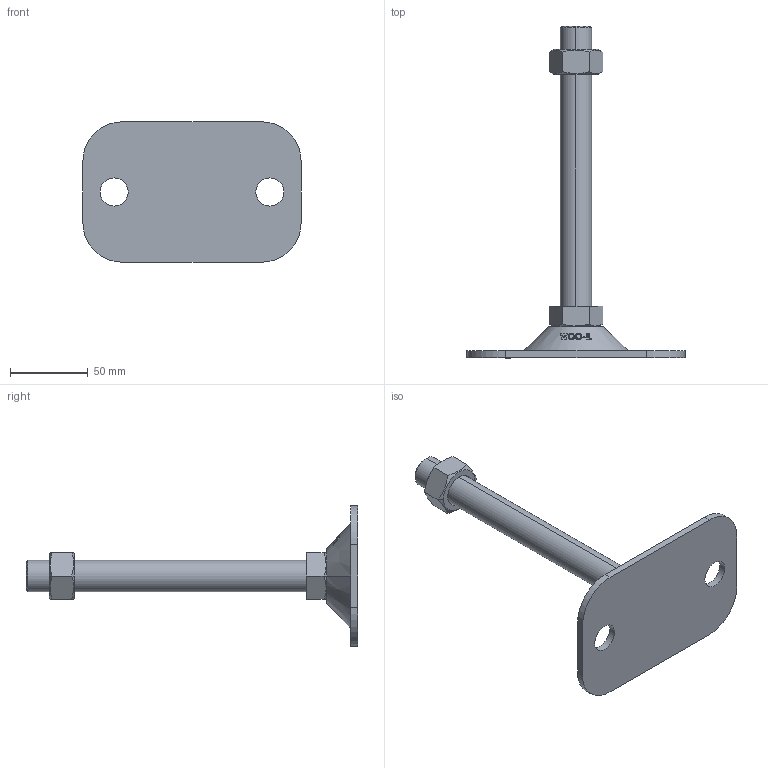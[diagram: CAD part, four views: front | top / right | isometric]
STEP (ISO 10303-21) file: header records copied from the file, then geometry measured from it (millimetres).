
FILE_DESCRIPTION (( 'STEP AP214' ), '1' );
FILE_NAME ('FABL90140-M20-180.step', '2021-03-28T23:53:31', ( '' ), ( '' ), 'SwSTEP 2.0', 'SolidWorks 2019', '' );
FILE_SCHEMA (( 'AUTOMOTIVE_DESIGN' ));
Length unit declared in the file: millimetre
Products named in the file (2): FABL90140-M20-180
Bounding box: 140 x 213 x 90 mm (x, y, z)
Volume: 159223.9 mm3; surface area: 42831.3 mm2
Topology: 2 solids, 2 shells, 130 faces, 333 edges, 218 vertices
Faces by surface type: plane 50, cylinder 40, cone 22, bspline 18
Entity records: 5583 total; most frequent: CARTESIAN_POINT 2625, ORIENTED_EDGE 666, DIRECTION 485, EDGE_CURVE 333, VERTEX_POINT 218, AXIS2_PLACEMENT_3D 178, EDGE_LOOP 147, B_SPLINE_CURVE_WITH_KNOTS 140
